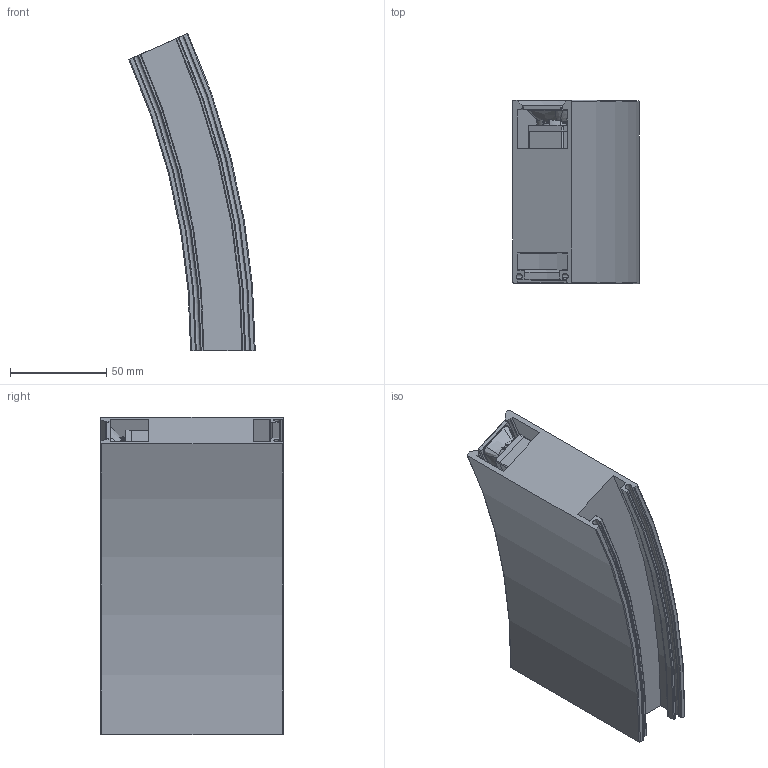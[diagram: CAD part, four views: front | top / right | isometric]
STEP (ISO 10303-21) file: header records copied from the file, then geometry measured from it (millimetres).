
FILE_DESCRIPTION(/* description */ (''),/* implementation_level */ '2;1');
FILE_NAME(/* name */ 'Evelo S R400 Optics Assembly.stp',/* time_stamp */ '2024-09-20T17:01:08+10:00',/* author */ ('Mlight Projects'),/* organization */ (''),/* preprocessor_version */ 'ST-DEVELOPER v20',/* originating_system */ 'Autodesk Inventor 2024',/* authorisation */ '');
FILE_SCHEMA (('AUTOMOTIVE_DESIGN { 1 0 10303 214 3 1 1 }'));
Length unit declared in the file: millimetre
Products named in the file (3): Evelo S R400 Optics Assembly; Body R200; Optics R400
Assembly tree (2 placements, depth 2):
  Evelo S R400 Optics Assembly
    Body R200
    Optics R400
Bounding box: 65.78 x 95.1 x 165.05 mm (x, y, z)
Volume: 373056.5 mm3; surface area: 100003.1 mm2
Topology: 4 solids, 4 shells, 1521 faces, 4083 edges, 2638 vertices
Faces by surface type: bspline 727, plane 426, cylinder 172, cone 159, torus 37
Full cylindrical faces by diameter (mm): 3.5 x3, 10.5 x3, 13.374 x6
Entity records: 73331 total; most frequent: CARTESIAN_POINT 38351, ORIENTED_EDGE 8166, DIRECTION 5400, EDGE_CURVE 4083, VERTEX_POINT 2638, AXIS2_PLACEMENT_3D 2159, EDGE_LOOP 1647, B_SPLINE_CURVE_WITH_KNOTS 1617
